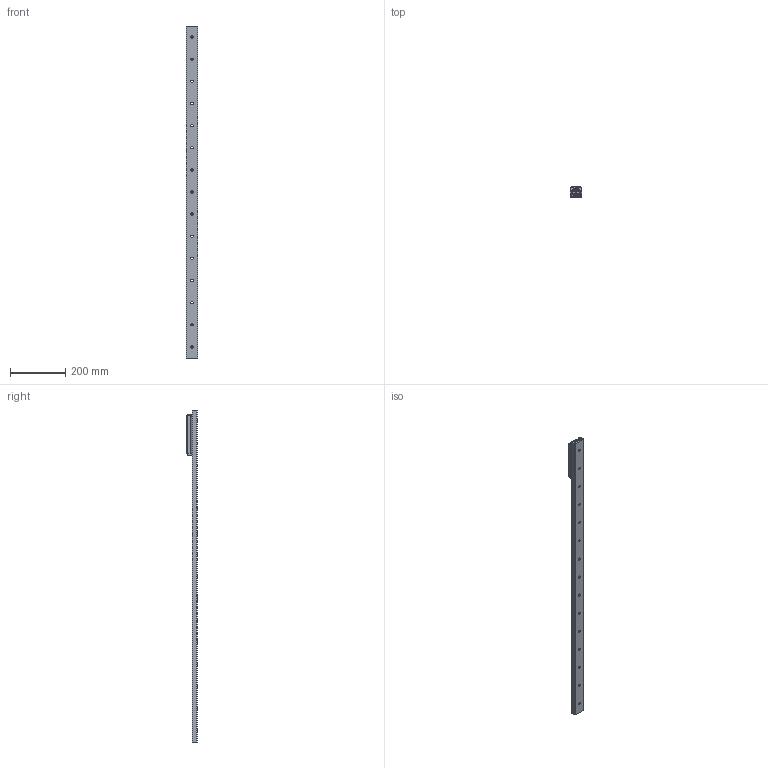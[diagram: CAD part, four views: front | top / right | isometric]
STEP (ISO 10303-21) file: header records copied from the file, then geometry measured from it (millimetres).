
FILE_DESCRIPTION( ( 'STEP AP214' ), '1' );
FILE_NAME( 'p:/temp/worker_54/temp/exporttempdir_3164_719_0YNND/format_2/TGV-01200_1_RV43G-3.stp', '2021-06-09T18:25:54', ( 'License CC BY-ND 4.0' ), ( 'CADENAS' ), ' ', 'PARTsolutions', ' ' );
FILE_SCHEMA( ( 'AUTOMOTIVE_DESIGN { 1 0 10303 214 1 1 1 1 }' ) );
Length unit declared in the file: millimetre
Products named in the file (6): TGV-01200/1/RV43G-3; _TGV43-1200-(3-1); _RVG43-3-slider; _RGNV43R; _RGAV43R; _WR43G-01
Assembly tree (7 placements, depth 2):
  TGV-01200/1/RV43G-3
    _TGV43-1200-(3-1)
    _RVG43-3-slider
    _RGNV43R  x2
    _RGAV43R
    _WR43G-01  x2
Bounding box: 43 x 37 x 1200 mm (x, y, z)
Volume: 560278.3 mm3; surface area: 224567.9 mm2
Topology: 7 solids, 7 shells, 1071 faces, 2799 edges, 1824 vertices
Faces by surface type: plane 663, cylinder 311, cone 54, bspline 34, torus 9
Full cylindrical faces by diameter (mm): 1.76 x4, 3 x8, 6 x4, 6.647 x4, 6.8 x3, 8 x3, 8.5 x15, 11 x11, 15 x6, 15.5 x1, 18.98 x2, 19 x1, 31.4 x6
Entity records: 25543 total; most frequent: CARTESIAN_POINT 4046, DIRECTION 3417, ORIENTED_EDGE 3154, EDGE_CURVE 1577, AXIS2_PLACEMENT_3D 1305, VERTEX_POINT 1096, EDGE_LOOP 887, LINE 807
